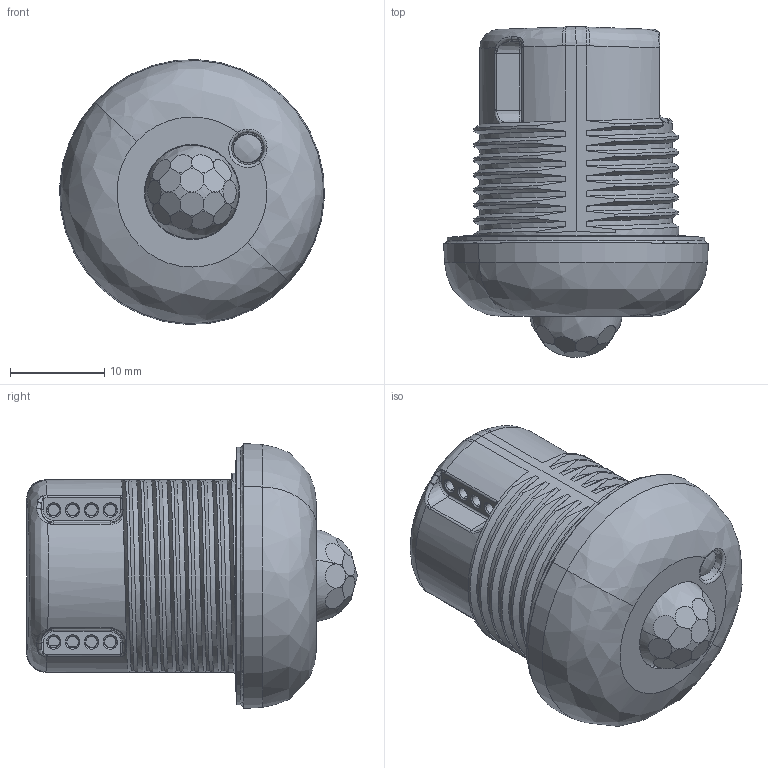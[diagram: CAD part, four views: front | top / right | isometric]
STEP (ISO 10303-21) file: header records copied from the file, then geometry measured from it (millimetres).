
FILE_DESCRIPTION (( 'STEP AP203' ), '1' );
FILE_NAME ('RA431JA8_20251023.STEP', '2025-10-23T06:18:26', ( '' ), ( '' ), 'SwSTEP 2.0', 'SolidWorks 2013', '' );
FILE_SCHEMA (( 'CONFIG_CONTROL_DESIGN' ));
Length unit declared in the file: millimetre
Products named in the file (14): RA431JA8_低 ANT_20251014_TEST; PANASONIC-AMN31112_ANY-104730; 2065-100_998-403-62880-72790; PART-476810; RA431JA8_20251023; LIGHT-SENSOR-7300-43310-422620; RA431JA8-2__X2_976284CB-1003860; RA431JA8_低天線MCU PCB_20251014; AP24052_ID_1__X2_65395C0-349620; RA431JA8-1_for低天線_20251014; _X2_653959297DDA_X0_PIR-1254500; LED_R_ANY-36110-414000; AP23009_SHORT_ID_1_CONNE-338180; ra431ja8-5b_rubber_20250919r1
Assembly tree (14 placements, depth 2):
  RA431JA8_20251023
    2065-100_998-403-62880-72790  x2
    AP23009_SHORT_ID_1_CONNE-338180
    AP24052_ID_1__X2_65395C0-349620
    LED_R_ANY-36110-414000
    LIGHT-SENSOR-7300-43310-422620
    PART-476810
    RA431JA8-2__X2_976284CB-1003860
    _X2_653959297DDA_X0_PIR-1254500
    PANASONIC-AMN31112_ANY-104730
    RA431JA8_低天線MCU PCB_20251014
    RA431JA8-1_for低天線_20251014
    RA431JA8_低 ANT_20251014_TEST
    ra431ja8-5b_rubber_20250919r1
Bounding box: 28.08 x 35.06 x 28.08 mm (x, y, z)
Volume: 7076.7 mm3; surface area: 11364.4 mm2
Topology: 16 solids, 16 shells, 1610 faces, 4684 edges, 3090 vertices
Faces by surface type: plane 757, cylinder 348, bspline 268, cone 231, torus 6
Entity records: 74260 total; most frequent: CARTESIAN_POINT 39264, ORIENTED_EDGE 8216, DIRECTION 5133, EDGE_CURVE 4108, VERTEX_POINT 2726, B_SPLINE_CURVE_WITH_KNOTS 1788, VECTOR 1751, LINE 1751
